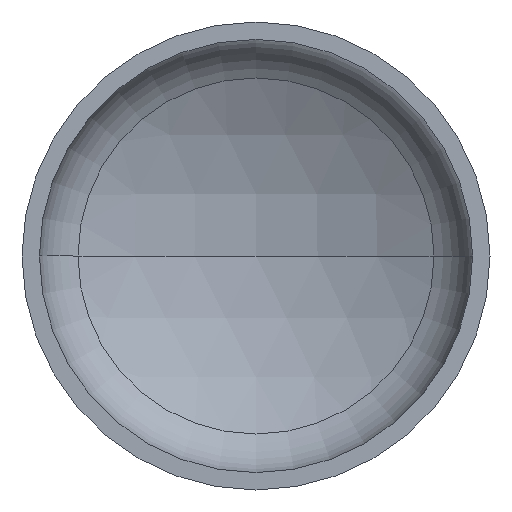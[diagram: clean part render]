
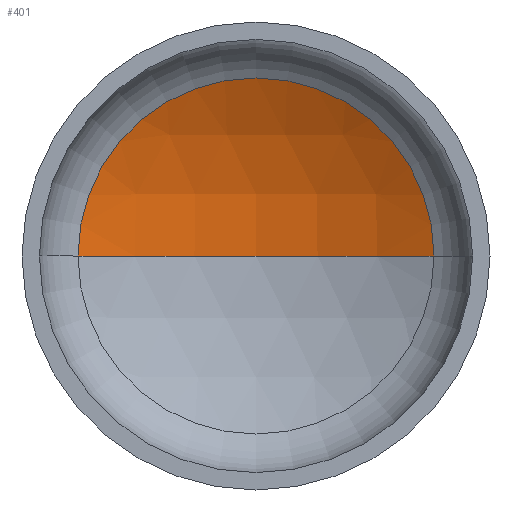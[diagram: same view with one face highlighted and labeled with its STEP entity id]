
A CAD part, front view. The second image highlights one B-rep face of the part: STEP entity #401.
In plain terms, the highlighted spherical face has radius 560 mm.
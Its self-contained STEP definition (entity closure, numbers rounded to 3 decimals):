
#8 = ORIENTED_EDGE ( 'NONE', *, *, #108, .T. ) ;
#9 = SPHERICAL_SURFACE ( 'NONE', #269, 560. ) ;
#13 = ORIENTED_EDGE ( 'NONE', *, *, #110, .F. ) ;
#38 = AXIS2_PLACEMENT_3D ( 'NONE', #388, #299, #319 ) ;
#40 = AXIS2_PLACEMENT_3D ( 'NONE', #92, #301, #154 ) ;
#41 = VERTEX_POINT ( 'NONE', #365 ) ;
#43 = AXIS2_PLACEMENT_3D ( 'NONE', #255, #349, #208 ) ;
#57 = EDGE_LOOP ( 'NONE', ( #13, #8, #136 ) ) ;
#92 = CARTESIAN_POINT ( 'NONE',  ( 0., -310.859, 0. ) ) ;
#104 = EDGE_CURVE ( 'NONE', #156, #41, #240, .T. ) ;
#108 = EDGE_CURVE ( 'NONE', #121, #156, #171, .T. ) ;
#110 = EDGE_CURVE ( 'NONE', #121, #41, #358, .T. ) ;
#115 = CARTESIAN_POINT ( 'NONE',  ( 266.311, 181.765, 0. ) ) ;
#121 = VERTEX_POINT ( 'NONE', #326 ) ;
#136 = ORIENTED_EDGE ( 'NONE', *, *, #104, .T. ) ;
#154 = DIRECTION ( 'NONE',  ( -1., 0., 0. ) ) ;
#156 = VERTEX_POINT ( 'NONE', #115 ) ;
#171 = CIRCLE ( 'NONE', #40, 560. ) ;
#174 = FACE_OUTER_BOUND ( 'NONE', #57, .T. ) ;
#208 = DIRECTION ( 'NONE',  ( 1., 0., 0. ) ) ;
#240 = CIRCLE ( 'NONE', #43, 266.311 ) ;
#254 = DIRECTION ( 'NONE',  ( -1., 0., 0. ) ) ;
#255 = CARTESIAN_POINT ( 'NONE',  ( 0., 181.765, 0. ) ) ;
#269 = AXIS2_PLACEMENT_3D ( 'NONE', #354, #307, #254 ) ;
#299 = DIRECTION ( 'NONE',  ( 0., 0., 1. ) ) ;
#301 = DIRECTION ( 'NONE',  ( 0., 0., -1. ) ) ;
#307 = DIRECTION ( 'NONE',  ( 0., 0., -1. ) ) ;
#319 = DIRECTION ( 'NONE',  ( 1., 0., 0. ) ) ;
#326 = CARTESIAN_POINT ( 'NONE',  ( 0., 249.141, 0. ) ) ;
#349 = DIRECTION ( 'NONE',  ( 0., -1., 0. ) ) ;
#354 = CARTESIAN_POINT ( 'NONE',  ( 0., -310.859, 0. ) ) ;
#358 = CIRCLE ( 'NONE', #38, 560. ) ;
#365 = CARTESIAN_POINT ( 'NONE',  ( -266.311, 181.765, 0. ) ) ;
#388 = CARTESIAN_POINT ( 'NONE',  ( 0., -310.859, 0. ) ) ;
#401 = ADVANCED_FACE ( 'NONE', ( #174 ), #9, .F. ) ;
